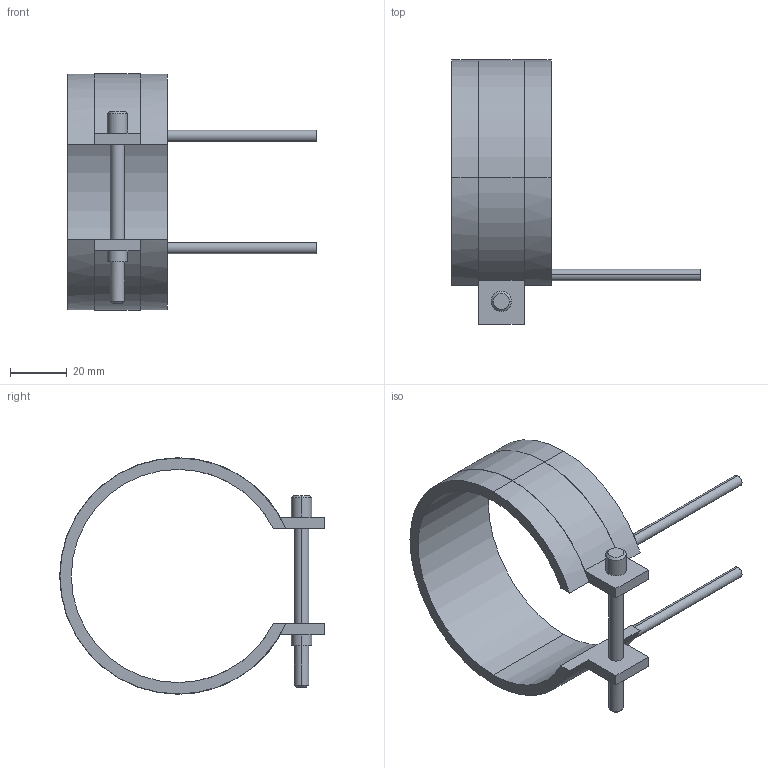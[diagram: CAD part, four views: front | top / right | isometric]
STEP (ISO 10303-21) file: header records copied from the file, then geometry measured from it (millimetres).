
FILE_DESCRIPTION(('CATIA V5 STEP Exchange'),'2;1');
FILE_NAME('C:\Users\Utente\Desktop\IO LAVORO\3D X SITO CF\X SITO\PLASTICA\RF2\14075035.stp','2021-04-03T08:44:36+00:00',('none'),('none'),'CATIA Version 5 Release 20 GA (IN-10)','CATIA V5 STEP AP203','none');
FILE_SCHEMA(('CONFIG_CONTROL_DESIGN'));
Length unit declared in the file: millimetre
Products named in the file (1): 14075035
Bounding box: 87.5 x 93.1 x 83.2 mm (x, y, z)
Volume: 34814.2 mm3; surface area: 20438.3 mm2
Topology: 1 solids, 1 shells, 45 faces, 116 edges, 76 vertices
Faces by surface type: cylinder 24, plane 17, cone 4
Entity records: 1406 total; most frequent: CARTESIAN_POINT 280, ORIENTED_EDGE 232, DIRECTION 196, EDGE_CURVE 116, AXIS2_PLACEMENT_3D 104, VERTEX_POINT 76, CIRCLE 62, VECTOR 52
